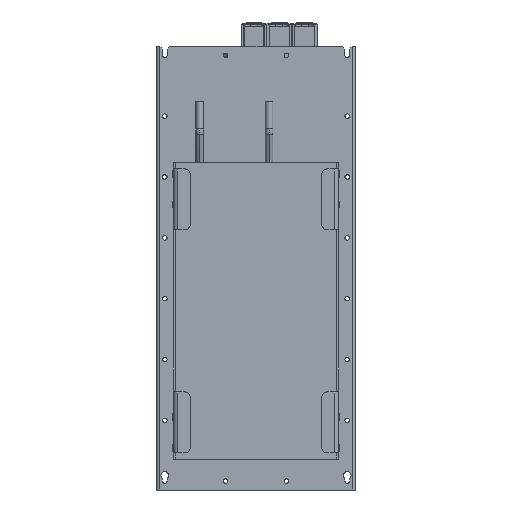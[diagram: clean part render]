
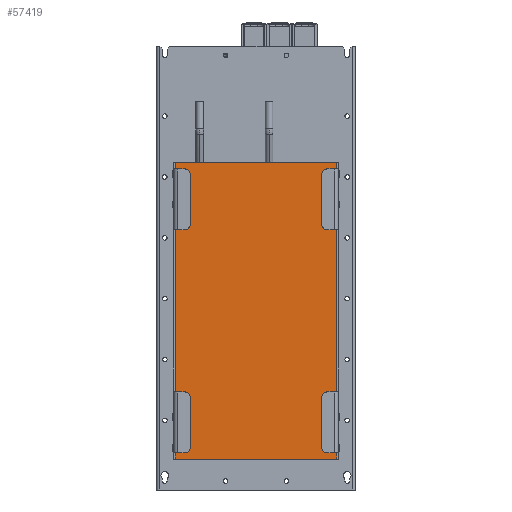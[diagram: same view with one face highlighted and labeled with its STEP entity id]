
A CAD part, front view. The second image highlights one B-rep face of the part: STEP entity #57419.
In plain terms, the highlighted planar face has unit normal (0, -1, 0).
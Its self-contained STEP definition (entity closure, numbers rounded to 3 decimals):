
#538 = CARTESIAN_POINT ( 'NONE',  ( 159., 0., 585.001 ) ) ;
#1501 = LINE ( 'NONE', #70781, #4739 ) ;
#3105 = ORIENTED_EDGE ( 'NONE', *, *, #83454, .T. ) ;
#3156 = CARTESIAN_POINT ( 'NONE',  ( 159., 0., 585.001 ) ) ;
#3267 = ORIENTED_EDGE ( 'NONE', *, *, #69746, .T. ) ;
#3472 = EDGE_CURVE ( 'NONE', #11605, #58704, #84568, .T. ) ;
#3655 = CARTESIAN_POINT ( 'NONE',  ( -159., 0., 585.001 ) ) ;
#4739 = VECTOR ( 'NONE', #28362, 1000. ) ;
#5278 = CARTESIAN_POINT ( 'NONE',  ( -159., 0., 12.5 ) ) ;
#6323 = ORIENTED_EDGE ( 'NONE', *, *, #25105, .F. ) ;
#7473 = DIRECTION ( 'NONE',  ( 1., 0., 0. ) ) ;
#7913 = CARTESIAN_POINT ( 'NONE',  ( 0., 0., 0. ) ) ;
#8479 = CARTESIAN_POINT ( 'NONE',  ( 159., 0., 452.5 ) ) ;
#8630 = VERTEX_POINT ( 'NONE', #50422 ) ;
#11605 = VERTEX_POINT ( 'NONE', #8479 ) ;
#11779 = EDGE_CURVE ( 'NONE', #88132, #35207, #35160, .T. ) ;
#12228 = LINE ( 'NONE', #57279, #35789 ) ;
#13566 = CARTESIAN_POINT ( 'NONE',  ( -159., 0., 132.5 ) ) ;
#13929 = LINE ( 'NONE', #78541, #89145 ) ;
#14006 = VECTOR ( 'NONE', #59165, 1000. ) ;
#14742 = FACE_OUTER_BOUND ( 'NONE', #55536, .T. ) ;
#15007 = EDGE_CURVE ( 'NONE', #72208, #78164, #42941, .T. ) ;
#15258 = CARTESIAN_POINT ( 'NONE',  ( 159., 0., 585.001 ) ) ;
#17306 = LINE ( 'NONE', #3655, #51895 ) ;
#19888 = DIRECTION ( 'NONE',  ( 0., 0., -1. ) ) ;
#20589 = VECTOR ( 'NONE', #43847, 1000. ) ;
#21415 = EDGE_CURVE ( 'NONE', #58704, #61660, #13929, .T. ) ;
#21941 = ORIENTED_EDGE ( 'NONE', *, *, #76326, .T. ) ;
#25105 = EDGE_CURVE ( 'NONE', #61660, #8630, #77481, .T. ) ;
#25144 = VERTEX_POINT ( 'NONE', #34623 ) ;
#25358 = CARTESIAN_POINT ( 'NONE',  ( -159., 0., 585. ) ) ;
#25900 = ORIENTED_EDGE ( 'NONE', *, *, #21415, .F. ) ;
#25984 = DIRECTION ( 'NONE',  ( 0., 0., -1. ) ) ;
#26909 = LINE ( 'NONE', #76170, #81914 ) ;
#28362 = DIRECTION ( 'NONE',  ( 0., 0., -1. ) ) ;
#31505 = DIRECTION ( 'NONE',  ( 0., 0., -1. ) ) ;
#31858 = VECTOR ( 'NONE', #48554, 1000. ) ;
#33901 = VERTEX_POINT ( 'NONE', #42772 ) ;
#34623 = CARTESIAN_POINT ( 'NONE',  ( -159., 0., 452.5 ) ) ;
#35160 = LINE ( 'NONE', #538, #53272 ) ;
#35207 = VERTEX_POINT ( 'NONE', #51144 ) ;
#35789 = VECTOR ( 'NONE', #35907, 1000. ) ;
#35907 = DIRECTION ( 'NONE',  ( -1., 0., 0. ) ) ;
#36597 = PLANE ( 'NONE',  #49487 ) ;
#36760 = EDGE_CURVE ( 'NONE', #80696, #33901, #17306, .T. ) ;
#37725 = ORIENTED_EDGE ( 'NONE', *, *, #36760, .T. ) ;
#37904 = CARTESIAN_POINT ( 'NONE',  ( -159., 0., 572.5 ) ) ;
#38736 = VECTOR ( 'NONE', #25984, 1000. ) ;
#42772 = CARTESIAN_POINT ( 'NONE',  ( -159., 0., 572.5 ) ) ;
#42941 = LINE ( 'NONE', #85350, #20589 ) ;
#43847 = DIRECTION ( 'NONE',  ( 0., 0., -1. ) ) ;
#44163 = LINE ( 'NONE', #3156, #14006 ) ;
#45279 = ORIENTED_EDGE ( 'NONE', *, *, #62240, .F. ) ;
#45386 = CARTESIAN_POINT ( 'NONE',  ( 159., 0., 12.5 ) ) ;
#45644 = CARTESIAN_POINT ( 'NONE',  ( -159., 0., 0. ) ) ;
#45715 = CARTESIAN_POINT ( 'NONE',  ( 159., 0., 132.5 ) ) ;
#48554 = DIRECTION ( 'NONE',  ( 0., 0., -1. ) ) ;
#49487 = AXIS2_PLACEMENT_3D ( 'NONE', #7913, #49833, #7473 ) ;
#49833 = DIRECTION ( 'NONE',  ( 0., -1., 0. ) ) ;
#50422 = CARTESIAN_POINT ( 'NONE',  ( 159., 0., 0. ) ) ;
#51144 = CARTESIAN_POINT ( 'NONE',  ( 159., 0., 572.5 ) ) ;
#51895 = VECTOR ( 'NONE', #57846, 1000. ) ;
#52137 = ORIENTED_EDGE ( 'NONE', *, *, #15007, .T. ) ;
#53272 = VECTOR ( 'NONE', #69336, 1000. ) ;
#55536 = EDGE_LOOP ( 'NONE', ( #37725, #21941, #3267, #52137, #3105, #63352, #6323, #25900, #71150, #61117, #55820, #45279 ) ) ;
#55820 = ORIENTED_EDGE ( 'NONE', *, *, #11779, .F. ) ;
#56909 = DIRECTION ( 'NONE',  ( 0., 0., -1. ) ) ;
#57279 = CARTESIAN_POINT ( 'NONE',  ( -163., 0., 0. ) ) ;
#57419 = ADVANCED_FACE ( 'NONE', ( #14742 ), #36597, .T. ) ;
#57846 = DIRECTION ( 'NONE',  ( 0., 0., -1. ) ) ;
#58704 = VERTEX_POINT ( 'NONE', #45715 ) ;
#59165 = DIRECTION ( 'NONE',  ( 0., 0., -1. ) ) ;
#61117 = ORIENTED_EDGE ( 'NONE', *, *, #84804, .F. ) ;
#61660 = VERTEX_POINT ( 'NONE', #45386 ) ;
#62240 = EDGE_CURVE ( 'NONE', #80696, #88132, #26909, .T. ) ;
#63352 = ORIENTED_EDGE ( 'NONE', *, *, #65623, .F. ) ;
#65623 = EDGE_CURVE ( 'NONE', #8630, #68995, #12228, .T. ) ;
#67005 = CARTESIAN_POINT ( 'NONE',  ( -159., 0., 585.001 ) ) ;
#67456 = LINE ( 'NONE', #67005, #38736 ) ;
#68995 = VERTEX_POINT ( 'NONE', #45644 ) ;
#69336 = DIRECTION ( 'NONE',  ( 0., 0., -1. ) ) ;
#69662 = VECTOR ( 'NONE', #31505, 1000. ) ;
#69746 = EDGE_CURVE ( 'NONE', #25144, #72208, #1501, .T. ) ;
#70781 = CARTESIAN_POINT ( 'NONE',  ( -159., 0., 585.001 ) ) ;
#71150 = ORIENTED_EDGE ( 'NONE', *, *, #3472, .F. ) ;
#72208 = VERTEX_POINT ( 'NONE', #13566 ) ;
#76170 = CARTESIAN_POINT ( 'NONE',  ( -163., 0., 585. ) ) ;
#76326 = EDGE_CURVE ( 'NONE', #33901, #25144, #79852, .T. ) ;
#77481 = LINE ( 'NONE', #83847, #85571 ) ;
#77897 = CARTESIAN_POINT ( 'NONE',  ( 159., 0., 585. ) ) ;
#78164 = VERTEX_POINT ( 'NONE', #5278 ) ;
#78541 = CARTESIAN_POINT ( 'NONE',  ( 159., 0., 585.001 ) ) ;
#79852 = LINE ( 'NONE', #37904, #69662 ) ;
#80696 = VERTEX_POINT ( 'NONE', #25358 ) ;
#81914 = VECTOR ( 'NONE', #83888, 1000. ) ;
#83454 = EDGE_CURVE ( 'NONE', #78164, #68995, #67456, .T. ) ;
#83847 = CARTESIAN_POINT ( 'NONE',  ( 159., 0., 585.001 ) ) ;
#83888 = DIRECTION ( 'NONE',  ( 1., 0., 0. ) ) ;
#84568 = LINE ( 'NONE', #15258, #31858 ) ;
#84804 = EDGE_CURVE ( 'NONE', #35207, #11605, #44163, .T. ) ;
#85350 = CARTESIAN_POINT ( 'NONE',  ( -159., 0., 585.001 ) ) ;
#85571 = VECTOR ( 'NONE', #56909, 1000. ) ;
#88132 = VERTEX_POINT ( 'NONE', #77897 ) ;
#89145 = VECTOR ( 'NONE', #19888, 1000. ) ;
